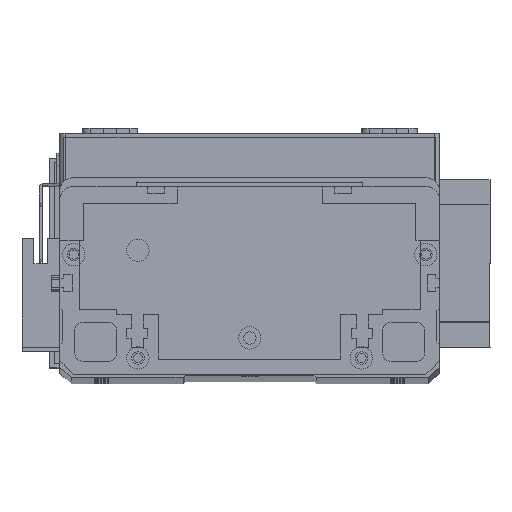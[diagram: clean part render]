
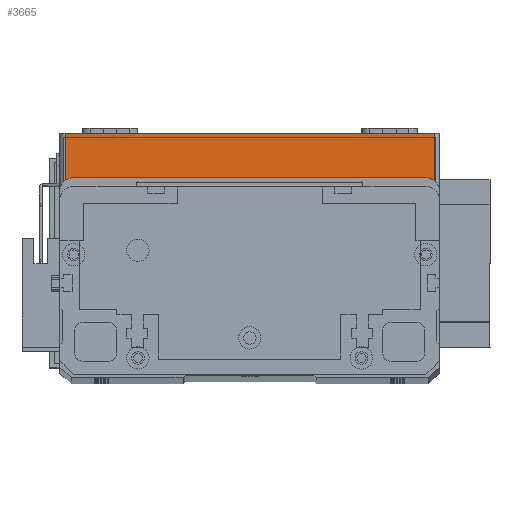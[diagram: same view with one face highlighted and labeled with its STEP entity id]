
A CAD part, top view. The second image highlights one B-rep face of the part: STEP entity #3665.
In plain terms, the highlighted planar face has unit normal (0, 0, 1) as drawn and (0, -1, 0) by its records, which use the part's own axes.
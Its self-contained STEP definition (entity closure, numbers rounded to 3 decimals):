
#218 = DIRECTION ( 'NONE',  ( 0., 1., 0. ) ) ;
#829 = EDGE_CURVE ( 'NONE', #13639, #17308, #19062, .T. ) ;
#856 = ORIENTED_EDGE ( 'NONE', *, *, #20054, .T. ) ;
#1696 = CARTESIAN_POINT ( 'NONE',  ( 134., 0., 0. ) ) ;
#3665 = ADVANCED_FACE ( 'NONE', ( #10806 ), #4708, .F. ) ;
#3988 = AXIS2_PLACEMENT_3D ( 'NONE', #25115, #218, #16085 ) ;
#4179 = ORIENTED_EDGE ( 'NONE', *, *, #27354, .T. ) ;
#4597 = LINE ( 'NONE', #23187, #11350 ) ;
#4708 = PLANE ( 'NONE',  #3988 ) ;
#5372 = CARTESIAN_POINT ( 'NONE',  ( 0., 0., 19.5 ) ) ;
#5971 = VECTOR ( 'NONE', #18676, 1000. ) ;
#6712 = ORIENTED_EDGE ( 'NONE', *, *, #25873, .T. ) ;
#7926 = VERTEX_POINT ( 'NONE', #1696 ) ;
#9574 = LINE ( 'NONE', #12616, #19470 ) ;
#9652 = DIRECTION ( 'NONE',  ( 0., 0., 1. ) ) ;
#9842 = DIRECTION ( 'NONE',  ( 1., 0., 0. ) ) ;
#10806 = FACE_OUTER_BOUND ( 'NONE', #19212, .T. ) ;
#11350 = VECTOR ( 'NONE', #9652, 1000. ) ;
#12616 = CARTESIAN_POINT ( 'NONE',  ( 2., 0., 19.5 ) ) ;
#13639 = VERTEX_POINT ( 'NONE', #25059 ) ;
#13775 = VECTOR ( 'NONE', #9842, 1000. ) ;
#14882 = DIRECTION ( 'NONE',  ( 0., 0., -1. ) ) ;
#16085 = DIRECTION ( 'NONE',  ( 0., 0., 1. ) ) ;
#16144 = VERTEX_POINT ( 'NONE', #21770 ) ;
#16390 = CARTESIAN_POINT ( 'NONE',  ( 0., 0., 0. ) ) ;
#17308 = VERTEX_POINT ( 'NONE', #26371 ) ;
#18676 = DIRECTION ( 'NONE',  ( 1., 0., 0. ) ) ;
#19062 = LINE ( 'NONE', #5372, #13775 ) ;
#19212 = EDGE_LOOP ( 'NONE', ( #22205, #856, #4179, #6712 ) ) ;
#19470 = VECTOR ( 'NONE', #14882, 1000. ) ;
#20054 = EDGE_CURVE ( 'NONE', #13639, #16144, #9574, .T. ) ;
#21770 = CARTESIAN_POINT ( 'NONE',  ( 2., 0., 0. ) ) ;
#22205 = ORIENTED_EDGE ( 'NONE', *, *, #829, .F. ) ;
#23187 = CARTESIAN_POINT ( 'NONE',  ( 134., 0., 19.5 ) ) ;
#24045 = LINE ( 'NONE', #16390, #5971 ) ;
#25059 = CARTESIAN_POINT ( 'NONE',  ( 2., 0., 19.5 ) ) ;
#25115 = CARTESIAN_POINT ( 'NONE',  ( 0., 0., 19.5 ) ) ;
#25873 = EDGE_CURVE ( 'NONE', #7926, #17308, #4597, .T. ) ;
#26371 = CARTESIAN_POINT ( 'NONE',  ( 134., 0., 19.5 ) ) ;
#27354 = EDGE_CURVE ( 'NONE', #16144, #7926, #24045, .T. ) ;
